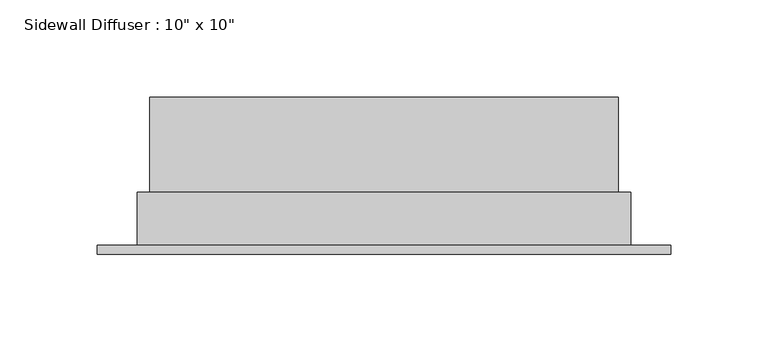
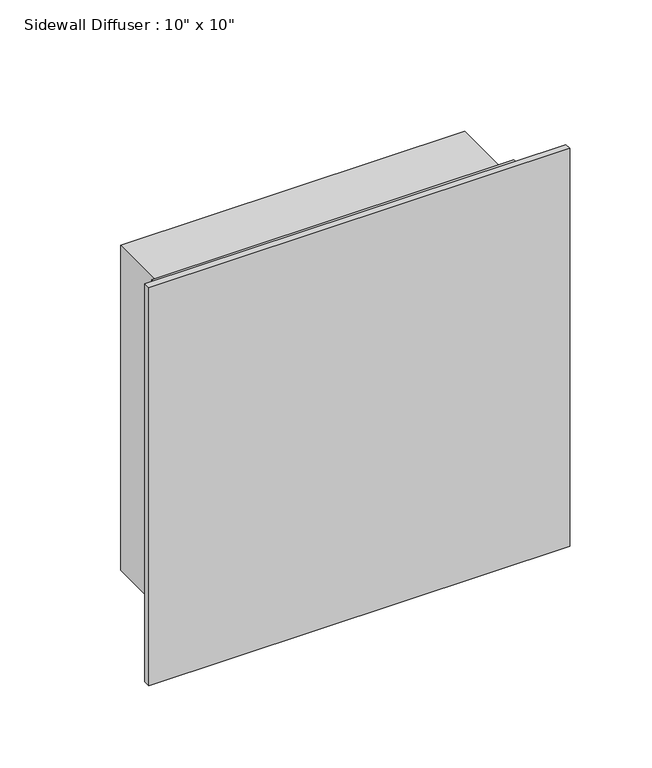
"""IFC4 building model written with IfcOpenShell, lengths in millimetres: air terminal geometry."""

from ifc_helpers import new_model, si_unit, frame, origin, place, context, project, spatial, polyline, outline, extrude, faceted_brep, source, transform, mapped, element, save


def air_terminal_37217d21(model_context):
    return source(origin(), model_context, "Body", "SolidModel", [
        faceted_brep([(-127.0, 0.0, 127.0), (-127.0, 0.0, -127.0), (127.0, 0.0, -127.0), (127.0, 0.0, 127.0), (-127.0, 27.384375, 127.0), (127.0, 27.384375, 127.0), (127.0, 27.384375, -127.0), (-127.0, 27.384375, -127.0), (-120.65, 27.384375, 120.65), (-120.65, 27.384375, -120.65), (120.65, 27.384375, -120.65), (120.65, 27.384375, 120.65), (-120.65, 76.2, 120.65), (120.65, 76.2, 120.65), (120.65, 76.2, -120.65), (-120.65, 76.2, -120.65)], [[[0, 1, 2, 3]], [[4, 5, 6, 7], [8, 9, 10, 11]], [[1, 0, 4, 7]], [[2, 1, 7, 6]], [[3, 2, 6, 5]], [[0, 3, 5, 4]], [[12, 13, 14, 15]], [[12, 15, 9, 8]], [[15, 14, 10, 9]], [[14, 13, 11, 10]], [[13, 12, 8, 11]]]),
        extrude(outline(polyline([(147.6375, -4.7625), (-147.6375, -4.7625), (-147.6375, 0.0), (147.6375, 0.0), (147.6375, -4.7625)])), frame((0.0, 0.0, -147.6375), z_axis=(0.0, 0.0, 1.0), x_axis=(1.0, 0.0, 0.0)), (0.0, 0.0, 1.0), 295.275),
    ])


if __name__ == "__main__":
    model = new_model("IFC4")
    model_context = context("Model", 3, world=origin())
    ifc_project = project(units=[si_unit("LENGTHUNIT", "METRE", prefix="MILLI")], contexts=[model_context])
    site = spatial("IfcSite", under=ifc_project)
    building = spatial("IfcBuilding", under=site)
    placement = place(None, origin())
    air_terminal_shape = air_terminal_37217d21(model_context)
    element("IfcAirTerminal", 1, ObjectType="Sidewall Diffuser : 10\" x 10\"", at=placement, inside=building, context=model_context, shape_type="MappedRepresentation", body=[
        mapped(air_terminal_shape, transform((0.0, 0.0, 0.0), x_axis=(1.0, 0.0, 0.0), y_axis=(0.0, 1.0, 0.0), z_axis=(0.0, 0.0, 1.0))),
    ])
    save(model, "model.ifc")
